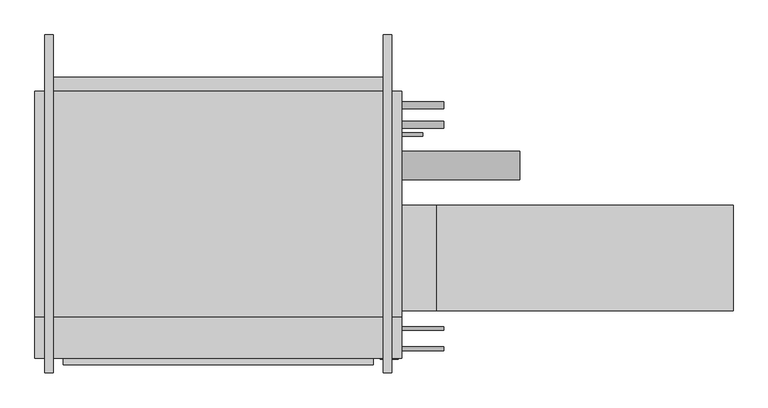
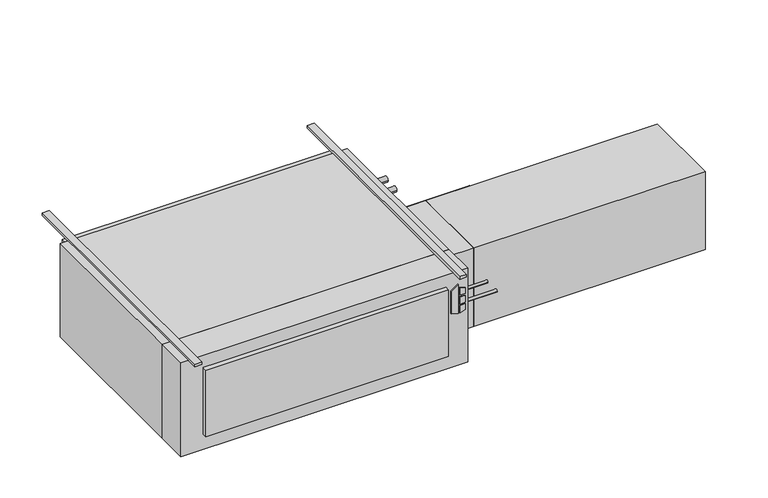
"""IFC4 building model written with IfcOpenShell, lengths in millimetres: proxy geometry."""

from ifc_helpers import new_model, si_unit, point, frame, frame_2d, origin, origin_with_axes, place, context, project, spatial, polyline, circle_curve, trimmed, segment, composite_curve, outline, extrude, source, transform, mapped, element, save


def mechanical_equipment_382ec1c5(model_context):
    return source(origin(), model_context, "Body", "SweptSolid", [
        extrude(outline(polyline([(-193.2519297, 735.0868862), (-203.2, 767.2602728), (-61.0290756, 767.2602728), (-84.0510817, 735.0868862), (-193.2519297, 735.0868862)])), frame((0.0, -797.052, 0.0), z_axis=(0.0, 1.0, 0.0), x_axis=(0.0, 0.0, 1.0)), (0.0, 0.0, 1.0), 3.175),
        extrude(outline(polyline([(-114.2526443, 774.0186058), (-117.4550368, 800.1), (-88.2261958, 800.1), (-80.1617807, 774.0186058), (-114.2526443, 774.0186058)])), frame((0.0, -797.052, 0.0), z_axis=(0.0, 1.0, 0.0), x_axis=(0.0, 0.0, 1.0)), (0.0, 0.0, 1.0), 3.175),
        extrude(outline(polyline([(-166.1161712, 800.1), (-169.7816721, 774.0186058), (-203.2, 774.0186058), (-194.5657628, 800.1), (-166.1161712, 800.1)])), frame((0.0, -797.052, 0.0), z_axis=(0.0, 1.0, 0.0), x_axis=(0.0, 0.0, 1.0)), (0.0, 0.0, 1.0), 3.175),
        extrude(outline(polyline([(-126.8010097, 800.1), (-124.5191834, 774.0186058), (-160.4567319, 774.0186058), (-157.7154669, 800.1), (-126.8010097, 800.1)])), frame((0.0, -797.052, 0.0), z_axis=(0.0, 1.0, 0.0), x_axis=(0.0, 0.0, 1.0)), (0.0, 0.0, 1.0), 3.175),
        extrude(outline(polyline([(812.8, -793.877), (-508.0, -793.877), (-508.0, -644.525), (812.8, -644.525), (812.8, -793.877)])), frame((0.0, 0.0, -457.2), z_axis=(0.0, 0.0, 1.0), x_axis=(1.0, 0.0, 0.0)), (0.0, 0.0, 1.0), 457.2),
        extrude(outline(polyline([(711.2, -816.229), (-406.4, -816.229), (-406.4, -793.877), (711.2, -793.877), (711.2, -816.229)])), frame((0.0, 0.0, -381.0), z_axis=(0.0, 0.0, 1.0), x_axis=(1.0, 0.0, 0.0)), (0.0, 0.0, 1.0), 323.85),
        extrude(outline(polyline([(2006.6, -241.3), (2006.6, -622.3), (939.8, -622.3), (939.8, -241.3), (2006.6, -241.3)])), frame((0.0, 0.0, -431.8), z_axis=(0.0, 0.0, 1.0), x_axis=(1.0, 0.0, 0.0)), (0.0, 0.0, 1.0), 381.0),
        extrude(outline(polyline([(939.8, -241.3), (939.8, -622.3), (812.8, -622.3), (812.8, -241.3), (939.8, -241.3)])), frame((0.0, 0.0, -431.8), z_axis=(0.0, 0.0, 1.0), x_axis=(1.0, 0.0, 0.0)), (0.0, 0.0, 1.0), 381.0),
        extrude(outline(composite_curve([segment(trimmed(circle_curve(frame_2d((-758.825, -184.15)), 6.35), [point((-752.475, -184.15))], [point((-765.175, -184.15))], False, "CARTESIAN"), True, "CONTINUOUS"), segment(trimmed(circle_curve(frame_2d((-758.825, -184.15)), 6.35), [point((-765.175, -184.15))], [point((-752.475, -184.15))], False, "CARTESIAN"), True, "CONTINUOUS")], self_intersect=False)), frame((812.8, 0.0, 0.0), z_axis=(1.0, 0.0, 0.0), x_axis=(0.0, 1.0, 0.0)), (0.0, 0.0, 1.0), 152.4),
        extrude(outline(composite_curve([segment(trimmed(circle_curve(frame_2d((-685.8, -184.15)), 6.35), [point((-679.45, -184.15))], [point((-692.15, -184.15))], False, "CARTESIAN"), True, "CONTINUOUS"), segment(trimmed(circle_curve(frame_2d((-685.8, -184.15)), 6.35), [point((-692.15, -184.15))], [point((-679.45, -184.15))], False, "CARTESIAN"), True, "CONTINUOUS")], self_intersect=False)), frame((812.8, 0.0, 0.0), z_axis=(1.0, 0.0, 0.0), x_axis=(0.0, 1.0, 0.0)), (0.0, 0.0, 1.0), 152.4),
        extrude(outline(composite_curve([segment(trimmed(circle_curve(frame_2d((117.475, -171.45)), 12.7), [point((130.175, -171.45))], [point((104.775, -171.45))], False, "CARTESIAN"), True, "CONTINUOUS"), segment(trimmed(circle_curve(frame_2d((117.475, -171.45)), 12.7), [point((104.775, -171.45))], [point((130.175, -171.45))], False, "CARTESIAN"), True, "CONTINUOUS")], self_intersect=False)), frame((812.8, 0.0, 0.0), z_axis=(1.0, 0.0, 0.0), x_axis=(0.0, 1.0, 0.0)), (0.0, 0.0, 1.0), 152.4),
        extrude(outline(composite_curve([segment(trimmed(circle_curve(frame_2d((47.625, -177.8)), 12.7), [point((60.325, -177.8))], [point((34.925, -177.8))], False, "CARTESIAN"), True, "CONTINUOUS"), segment(trimmed(circle_curve(frame_2d((47.625, -177.8)), 12.7), [point((34.925, -177.8))], [point((60.325, -177.8))], False, "CARTESIAN"), True, "CONTINUOUS")], self_intersect=False)), frame((812.8, 0.0, 0.0), z_axis=(1.0, 0.0, 0.0), x_axis=(0.0, 1.0, 0.0)), (0.0, 0.0, 1.0), 152.4),
        extrude(outline(composite_curve([segment(trimmed(circle_curve(frame_2d((-98.4896516, -228.6360165)), 50.8), [point((-47.6896516, -228.6360165))], [point((-149.2896516, -228.6360165))], False, "CARTESIAN"), True, "CONTINUOUS"), segment(trimmed(circle_curve(frame_2d((-98.4896516, -228.6360165)), 50.8), [point((-149.2896516, -228.6360165))], [point((-47.6896516, -228.6360165))], False, "CARTESIAN"), True, "CONTINUOUS")], self_intersect=False)), frame((812.8, 0.0, 0.0), z_axis=(1.0, 0.0, 0.0), x_axis=(0.0, 1.0, 0.0)), (0.0, 0.0, 1.0), 425.45),
        extrude(outline(composite_curve([segment(trimmed(circle_curve(frame_2d((12.7, -409.575)), 6.35), [point((19.05, -409.575))], [point((6.35, -409.575))], False, "CARTESIAN"), True, "CONTINUOUS"), segment(trimmed(circle_curve(frame_2d((12.7, -409.575)), 6.35), [point((6.35, -409.575))], [point((19.05, -409.575))], False, "CARTESIAN"), True, "CONTINUOUS")], self_intersect=False)), frame((812.8, 0.0, 0.0), z_axis=(1.0, 0.0, 0.0), x_axis=(0.0, 1.0, 0.0)), (0.0, 0.0, 1.0), 76.2),
        extrude(outline(polyline([(812.8, 168.275), (812.8, -644.525), (-508.0, -644.525), (-508.0, 168.275), (812.8, 168.275)])), frame((0.0, 0.0, -457.2), z_axis=(0.0, 0.0, 1.0), x_axis=(1.0, 0.0, 0.0)), (0.0, 0.0, 1.0), 457.2),
        extrude(outline(polyline([(-469.9, 219.075), (774.7, 219.075), (774.7, 168.275), (-469.9, 168.275), (-469.9, 219.075)])), frame((0.0, 0.0, -381.0), z_axis=(0.0, 0.0, 1.0), x_axis=(1.0, 0.0, 0.0)), (0.0, 0.0, 1.0), 355.6),
        extrude(outline(polyline([(-441.325, 371.475), (-441.325, -844.677), (-473.075, -844.677), (-473.075, 371.475), (-441.325, 371.475)])), origin_with_axes(), (0.0, 0.0, 1.0), 12.7),
        extrude(outline(polyline([(777.875, 371.475), (777.875, -844.677), (746.125, -844.677), (746.125, 371.475), (777.875, 371.475)])), origin_with_axes(), (0.0, 0.0, 1.0), 12.7),
    ])


if __name__ == "__main__":
    model = new_model("IFC4")
    model_context = context("Model", 3, world=origin())
    ifc_project = project(units=[si_unit("LENGTHUNIT", "METRE", prefix="MILLI")], contexts=[model_context])
    site = spatial("IfcSite", under=ifc_project)
    building = spatial("IfcBuilding", under=site)
    placement = place(None, origin())
    mechanical_equipment_shape = mechanical_equipment_382ec1c5(model_context)
    element("IfcBuildingElementProxy", 1, Name="High_Capacity_Horizontal_Cabinet_Fan_Coil_Unit_-_HTY_-_IEC_-_4-Pipe_RH Side_2022 : Size 18 - 115v/60Hz/1Ph - 4/1 Coil - 4\" AirIn", ObjectType="High_Capacity_Horizontal_Cabinet_Fan_Coil_Unit_-_HTY_-_IEC_-_4-Pipe_RH Side_2022 : Size 18 - 115v/60Hz/1Ph - 4/1 Coil - 4\" AirIn", at=placement, inside=building, context=model_context, shape_type="MappedRepresentation", body=[
        mapped(mechanical_equipment_shape, transform((0.0, 0.0, 0.0), x_axis=(1.0, 0.0, 0.0), y_axis=(0.0, 1.0, 0.0), z_axis=(0.0, 0.0, 1.0))),
    ])
    save(model, "model.ifc")
